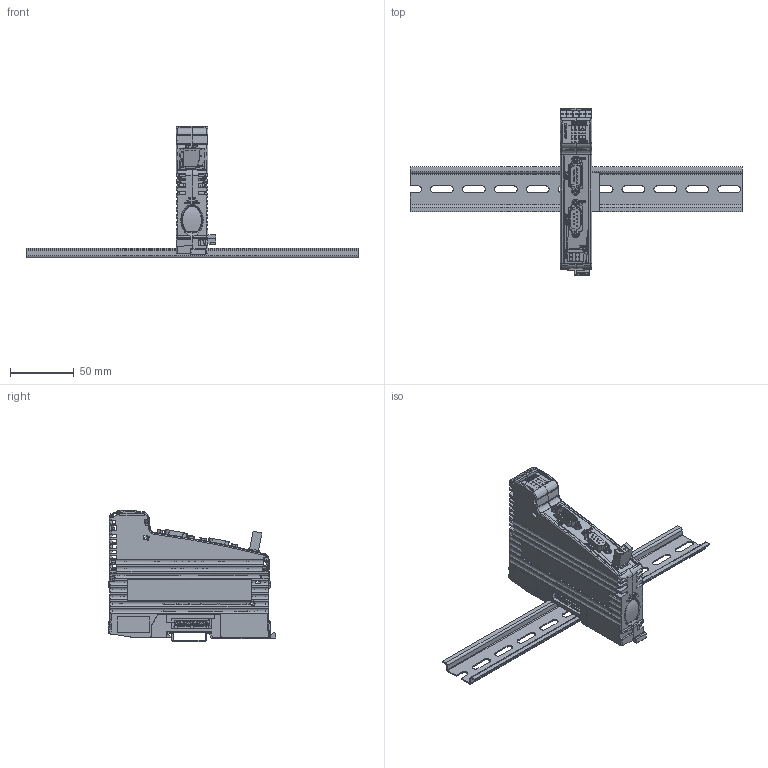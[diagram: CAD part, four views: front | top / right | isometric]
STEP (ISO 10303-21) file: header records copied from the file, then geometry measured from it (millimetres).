
FILE_DESCRIPTION(/* description */ ('Solid'),/* implementation_level */ '2;1');
FILE_NAME(/* name */ 'FG_JX3-BN-CAN_001_04',/* time_stamp */ '2016-02-19T14:36:00+01:00',/* author */ ('T. Busch'),/* organization */ ('Jetter AG'),/* preprocessor_version */ 'ST-DEVELOPER v16.7',/* originating_system */ 'DEX',/* authorisation */ $);
FILE_SCHEMA (('AUTOMOTIVE_DESIGN {1 0 10303 214 3 1 1}'));
Products named in the file (21): FG_JX3-BN-CAN_001_04; KT_Din_Schiene_Niedrig; BoY_JX3_01_001_01; Bo_JX3_001_01; De_JX3_001_00; PCBY_JX3-BP_001_03; BU_10_E_WI_RM2_54; ST_10_E_WI_RM2_54; GE_JX3-BN-CAN_001_00; Sw-LI_JX3_001_01; PCBY_JX3-BN-CAN_001_09; ST_02_E_WI_RM3_5_A; BU_9_SUB_D_WI_R-LATCH_SMD; ST_9_SUB_D_WI_R-LATCH_SMD; BL_JX3-BN-CAN_005_04; LL_JX3_003_02; Sw-RE_JX3_001_01; Fo_JX3-BN-CAN_001_04; KT_M3_UNC; Bc_Weidmüller_001; BLZF_3_5_2_SN_SW_1690420000
Assembly tree (27 placements, depth 4):
  FG_JX3-BN-CAN_001_04
    KT_Din_Schiene_Niedrig
    BoY_JX3_01_001_01
      Bo_JX3_001_01
      De_JX3_001_00
      PCBY_JX3-BP_001_03
        BU_10_E_WI_RM2_54
        ST_10_E_WI_RM2_54
    GE_JX3-BN-CAN_001_00
      Sw-LI_JX3_001_01
      PCBY_JX3-BN-CAN_001_09
        ST_02_E_WI_RM3_5_A
        BU_9_SUB_D_WI_R-LATCH_SMD
        ST_9_SUB_D_WI_R-LATCH_SMD
      BL_JX3-BN-CAN_005_04
      LL_JX3_003_02
      Sw-RE_JX3_001_01
      Fo_JX3-BN-CAN_001_04
      KT_M3_UNC  x4
    Bc_Weidmüller_001  x5
    BLZF_3_5_2_SN_SW_1690420000
Bounding box: 260 x 131.39 x 102.91 mm (x, y, z)
Volume: 81510.3 mm3; surface area: 114959.1 mm2
Topology: 29 solids, 33 shells, 4542 faces, 12482 edges, 8066 vertices
Faces by surface type: plane 3167, cylinder 787, cone 226, bspline 223, sphere 79, torus 60
Full cylindrical faces by diameter (mm): 0.2 x2, 0.5 x2, 0.6 x20, 0.75 x10, 0.8 x18, 0.9 x10, 1 x4, 2.2 x4, 2.5 x8, 2.8 x2, 2.845 x4, 3.2 x4, 4.5 x2, 4.6 x2
Entity records: 160394 total; most frequent: CARTESIAN_POINT 43900, ORIENTED_EDGE 22306, DIRECTION 20288, EDGE_CURVE 11153, LINE 8554, VECTOR 8554, VERTEX_POINT 7382, AXIS2_PLACEMENT_3D 5867
